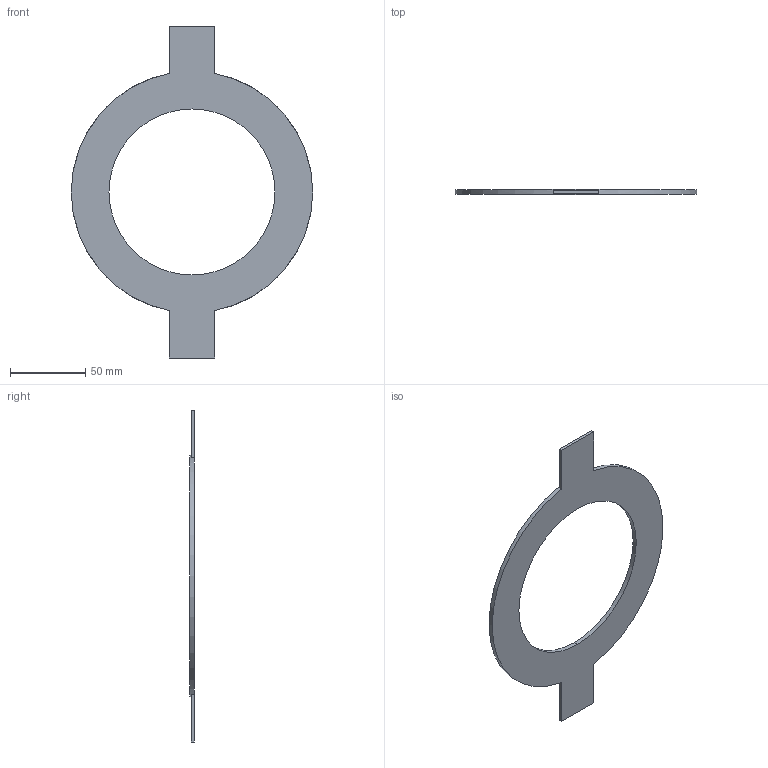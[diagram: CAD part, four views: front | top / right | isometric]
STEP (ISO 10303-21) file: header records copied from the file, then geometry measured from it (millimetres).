
FILE_DESCRIPTION (( 'STEP AP203' ), '1' );
FILE_NAME ('KP_7-110 DIN.step', '2011-08-08T12:04:31', ( '' ), ( '' ), 'SwSTEP 2.0', 'SolidWorks 2011', '' );
FILE_SCHEMA (( 'CONFIG_CONTROL_DESIGN' ));
Length unit declared in the file: millimetre
Products named in the file (1): KP_7-110 DIN
Bounding box: 160 x 3 x 220 mm (x, y, z)
Volume: 35465.2 mm3; surface area: 27657.6 mm2
Topology: 1 solids, 1 shells, 14 faces, 36 edges, 24 vertices
Faces by surface type: plane 10, cylinder 4
Entity records: 513 total; most frequent: DIRECTION 78, CARTESIAN_POINT 75, ORIENTED_EDGE 72, EDGE_CURVE 36, AXIS2_PLACEMENT_3D 27, VECTOR 24, LINE 24, VERTEX_POINT 24
